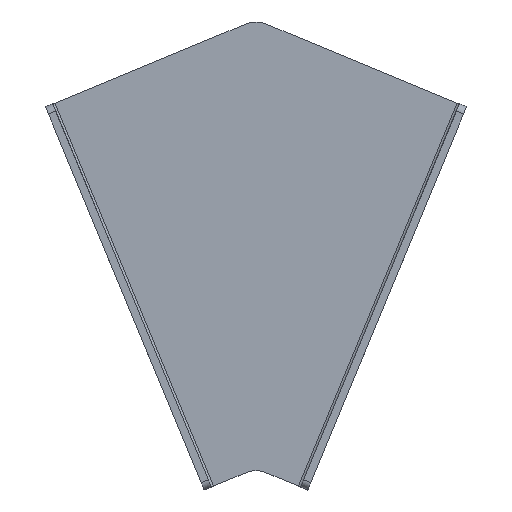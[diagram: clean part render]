
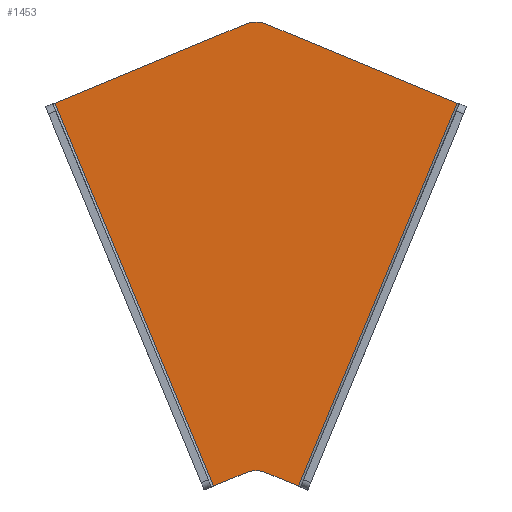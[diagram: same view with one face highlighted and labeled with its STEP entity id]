
A CAD part, top view. The second image highlights one B-rep face of the part: STEP entity #1453.
In plain terms, the highlighted planar face has unit normal (0, 0, 1).
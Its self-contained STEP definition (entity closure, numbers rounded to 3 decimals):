
#69 = CARTESIAN_POINT ( 'NONE',  ( 0., 0., 3. ) ) ;
#96 = CARTESIAN_POINT ( 'NONE',  ( 20., -2.54, 3. ) ) ;
#104 = VERTEX_POINT ( 'NONE', #363 ) ;
#109 = DIRECTION ( 'NONE',  ( -0.924, -0.383, 0. ) ) ;
#130 = VECTOR ( 'NONE', #1722, 1000. ) ;
#155 = ORIENTED_EDGE ( 'NONE', *, *, #1161, .T. ) ;
#174 = ORIENTED_EDGE ( 'NONE', *, *, #1738, .T. ) ;
#182 = VECTOR ( 'NONE', #924, 1000. ) ;
#252 = DIRECTION ( 'NONE',  ( 1., 0., 0. ) ) ;
#261 = LINE ( 'NONE', #1348, #1859 ) ;
#284 = DIRECTION ( 'NONE',  ( 0., 0., 1. ) ) ;
#321 = CARTESIAN_POINT ( 'NONE',  ( 3.696, 1.531, 3. ) ) ;
#355 = CARTESIAN_POINT ( 'NONE',  ( -57.534, 149.351, 3. ) ) ;
#363 = CARTESIAN_POINT ( 'NONE',  ( 36.304, 1.531, 3. ) ) ;
#458 = EDGE_CURVE ( 'NONE', #1168, #1743, #1779, .T. ) ;
#502 = LINE ( 'NONE', #321, #130 ) ;
#534 = FACE_OUTER_BOUND ( 'NONE', #883, .T. ) ;
#567 = ORIENTED_EDGE ( 'NONE', *, *, #458, .T. ) ;
#591 = EDGE_CURVE ( 'NONE', #104, #1045, #594, .T. ) ;
#594 = LINE ( 'NONE', #765, #182 ) ;
#612 = ORIENTED_EDGE ( 'NONE', *, *, #591, .T. ) ;
#634 = ORIENTED_EDGE ( 'NONE', *, *, #1201, .T. ) ;
#639 = CARTESIAN_POINT ( 'NONE',  ( 16.173, 6.699, 3. ) ) ;
#649 = VECTOR ( 'NONE', #650, 1000. ) ;
#650 = DIRECTION ( 'NONE',  ( 0.924, -0.383, 0. ) ) ;
#659 = CARTESIAN_POINT ( 'NONE',  ( 23.827, 6.699, 3. ) ) ;
#765 = CARTESIAN_POINT ( 'NONE',  ( 30.447, -12.611, 3. ) ) ;
#767 = CARTESIAN_POINT ( 'NONE',  ( 16.173, 179.882, 3. ) ) ;
#768 = VECTOR ( 'NONE', #815, 1000. ) ;
#796 = EDGE_CURVE ( 'NONE', #1308, #1552, #1855, .T. ) ;
#815 = DIRECTION ( 'NONE',  ( -0.924, 0.383, 0. ) ) ;
#826 = CARTESIAN_POINT ( 'NONE',  ( 20., 170.643, 3. ) ) ;
#883 = EDGE_LOOP ( 'NONE', ( #1333, #1796, #634, #567, #155, #612, #174, #963 ) ) ;
#924 = DIRECTION ( 'NONE',  ( 0.383, 0.924, 0. ) ) ;
#963 = ORIENTED_EDGE ( 'NONE', *, *, #796, .T. ) ;
#985 = DIRECTION ( 'NONE',  ( 1., 0., 0. ) ) ;
#1022 = LINE ( 'NONE', #69, #1791 ) ;
#1045 = VERTEX_POINT ( 'NONE', #1700 ) ;
#1055 = PLANE ( 'NONE',  #1782 ) ;
#1060 = CARTESIAN_POINT ( 'NONE',  ( 0., 0., 3. ) ) ;
#1063 = LINE ( 'NONE', #1422, #649 ) ;
#1161 = EDGE_CURVE ( 'NONE', #1743, #104, #1063, .T. ) ;
#1168 = VERTEX_POINT ( 'NONE', #639 ) ;
#1181 = CARTESIAN_POINT ( 'NONE',  ( 23.827, 179.882, 3. ) ) ;
#1189 = DIRECTION ( 'NONE',  ( 0., 0., -1. ) ) ;
#1201 = EDGE_CURVE ( 'NONE', #1681, #1168, #1022, .T. ) ;
#1308 = VERTEX_POINT ( 'NONE', #1181 ) ;
#1333 = ORIENTED_EDGE ( 'NONE', *, *, #1382, .T. ) ;
#1348 = CARTESIAN_POINT ( 'NONE',  ( -61.229, 147.821, 3. ) ) ;
#1372 = DIRECTION ( 'NONE',  ( 1., 0., 0. ) ) ;
#1382 = EDGE_CURVE ( 'NONE', #1552, #1803, #261, .T. ) ;
#1415 = CARTESIAN_POINT ( 'NONE',  ( 3.696, 1.531, 3. ) ) ;
#1422 = CARTESIAN_POINT ( 'NONE',  ( 40., 0., 3. ) ) ;
#1453 = ADVANCED_FACE ( 'NONE', ( #534 ), #1055, .T. ) ;
#1545 = LINE ( 'NONE', #1746, #768 ) ;
#1552 = VERTEX_POINT ( 'NONE', #767 ) ;
#1674 = EDGE_CURVE ( 'NONE', #1803, #1681, #502, .T. ) ;
#1681 = VERTEX_POINT ( 'NONE', #1415 ) ;
#1684 = AXIS2_PLACEMENT_3D ( 'NONE', #826, #1905, #985 ) ;
#1700 = CARTESIAN_POINT ( 'NONE',  ( 97.534, 149.351, 3. ) ) ;
#1722 = DIRECTION ( 'NONE',  ( 0.383, -0.924, 0. ) ) ;
#1738 = EDGE_CURVE ( 'NONE', #1045, #1308, #1545, .T. ) ;
#1743 = VERTEX_POINT ( 'NONE', #659 ) ;
#1746 = CARTESIAN_POINT ( 'NONE',  ( 101.229, 147.821, 3. ) ) ;
#1779 = CIRCLE ( 'NONE', #1969, 10. ) ;
#1782 = AXIS2_PLACEMENT_3D ( 'NONE', #1060, #284, #1372 ) ;
#1791 = VECTOR ( 'NONE', #1927, 1000. ) ;
#1796 = ORIENTED_EDGE ( 'NONE', *, *, #1674, .T. ) ;
#1803 = VERTEX_POINT ( 'NONE', #355 ) ;
#1855 = CIRCLE ( 'NONE', #1684, 10. ) ;
#1859 = VECTOR ( 'NONE', #109, 1000. ) ;
#1905 = DIRECTION ( 'NONE',  ( 0., 0., 1. ) ) ;
#1927 = DIRECTION ( 'NONE',  ( 0.924, 0.383, 0. ) ) ;
#1969 = AXIS2_PLACEMENT_3D ( 'NONE', #96, #1189, #252 ) ;
